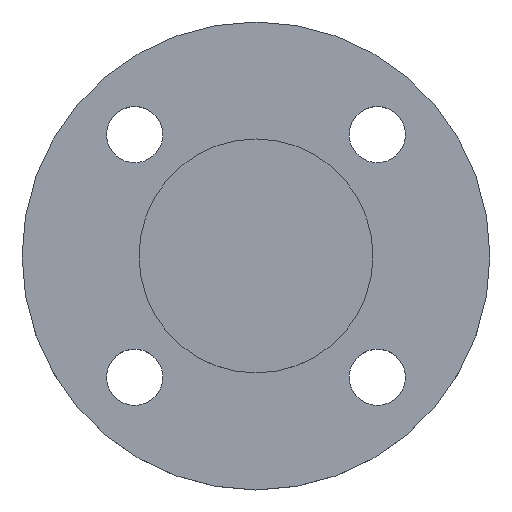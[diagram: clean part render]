
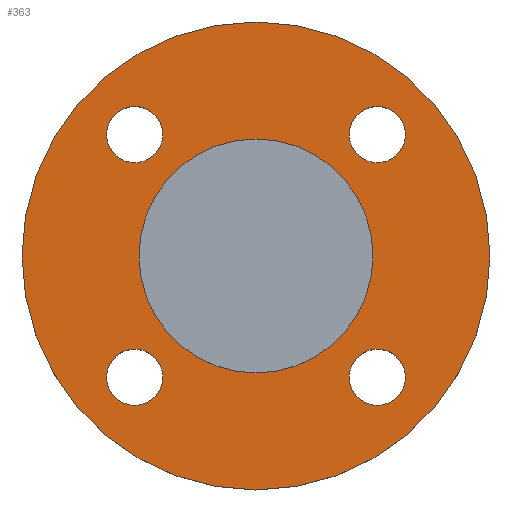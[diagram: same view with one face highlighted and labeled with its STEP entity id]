
A CAD part, top view. The second image highlights one B-rep face of the part: STEP entity #363.
In plain terms, the highlighted planar face has unit normal (0, 0, 1).
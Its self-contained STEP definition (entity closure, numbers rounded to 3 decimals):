
#1 = EDGE_CURVE ( 'NONE', #562, #579, #501, .T. ) ;
#2 = AXIS2_PLACEMENT_3D ( 'NONE', #258, #259, #260 ) ;
#3 = CIRCLE ( 'NONE', #2, 9. ) ;
#9 = EDGE_CURVE ( 'NONE', #572, #369, #351, .T. ) ;
#13 = AXIS2_PLACEMENT_3D ( 'NONE', #105, #104, #103 ) ;
#15 = VERTEX_POINT ( 'NONE', #598 ) ;
#26 = CIRCLE ( 'NONE', #415, 37.5 ) ;
#38 = AXIS2_PLACEMENT_3D ( 'NONE', #86, #85, #82 ) ;
#70 = FACE_BOUND ( 'NONE', #541, .T. ) ;
#82 = DIRECTION ( 'NONE',  ( 1., 0., 0. ) ) ;
#85 = DIRECTION ( 'NONE',  ( 0., 0., -1. ) ) ;
#86 = CARTESIAN_POINT ( 'NONE',  ( 38.891, -38.891, -4.5 ) ) ;
#103 = DIRECTION ( 'NONE',  ( 1., 0., 0. ) ) ;
#104 = DIRECTION ( 'NONE',  ( 0., 0., -1. ) ) ;
#105 = CARTESIAN_POINT ( 'NONE',  ( 38.891, 38.891, -4.5 ) ) ;
#109 = DIRECTION ( 'NONE',  ( 1., 0., 0. ) ) ;
#110 = DIRECTION ( 'NONE',  ( 0., 0., -1. ) ) ;
#111 = CARTESIAN_POINT ( 'NONE',  ( -38.891, -38.891, -4.5 ) ) ;
#117 = AXIS2_PLACEMENT_3D ( 'NONE', #111, #110, #109 ) ;
#141 = DIRECTION ( 'NONE',  ( 0., 0., -1. ) ) ;
#144 = DIRECTION ( 'NONE',  ( 1., 0., 0. ) ) ;
#149 = CARTESIAN_POINT ( 'NONE',  ( 0., 0., -4.5 ) ) ;
#151 = DIRECTION ( 'NONE',  ( -1., 0., 0. ) ) ;
#155 = CARTESIAN_POINT ( 'NONE',  ( -38.891, 38.891, -4.5 ) ) ;
#156 = DIRECTION ( 'NONE',  ( 0., 0., -1. ) ) ;
#166 = CARTESIAN_POINT ( 'NONE',  ( -37.5, 0., -4.5 ) ) ;
#168 = AXIS2_PLACEMENT_3D ( 'NONE', #680, #194, #195 ) ;
#185 = CARTESIAN_POINT ( 'NONE',  ( -47.891, 38.891, -4.5 ) ) ;
#192 = CIRCLE ( 'NONE', #13, 9. ) ;
#193 = FACE_BOUND ( 'NONE', #400, .T. ) ;
#194 = DIRECTION ( 'NONE',  ( 0., 0., 1. ) ) ;
#195 = DIRECTION ( 'NONE',  ( 1., 0., 0. ) ) ;
#206 = CARTESIAN_POINT ( 'NONE',  ( 75., 0., -4.5 ) ) ;
#207 = CARTESIAN_POINT ( 'NONE',  ( 29.891, -38.891, -4.5 ) ) ;
#208 = CARTESIAN_POINT ( 'NONE',  ( 0., 0., -4.5 ) ) ;
#209 = DIRECTION ( 'NONE',  ( 0., 0., -1. ) ) ;
#210 = DIRECTION ( 'NONE',  ( -1., 0., 0. ) ) ;
#212 = CARTESIAN_POINT ( 'NONE',  ( 38.891, -38.891, -4.5 ) ) ;
#213 = DIRECTION ( 'NONE',  ( 0., 0., -1. ) ) ;
#214 = DIRECTION ( 'NONE',  ( 1., 0., 0. ) ) ;
#217 = CARTESIAN_POINT ( 'NONE',  ( 37.5, 0., -4.5 ) ) ;
#229 = CIRCLE ( 'NONE', #117, 9. ) ;
#237 = CARTESIAN_POINT ( 'NONE',  ( -47.891, -38.891, -4.5 ) ) ;
#258 = CARTESIAN_POINT ( 'NONE',  ( -38.891, -38.891, -4.5 ) ) ;
#259 = DIRECTION ( 'NONE',  ( 0., 0., -1. ) ) ;
#260 = DIRECTION ( 'NONE',  ( 1., 0., 0. ) ) ;
#265 = CARTESIAN_POINT ( 'NONE',  ( 47.891, 38.891, -4.5 ) ) ;
#267 = CARTESIAN_POINT ( 'NONE',  ( -29.891, -38.891, -4.5 ) ) ;
#293 = CARTESIAN_POINT ( 'NONE',  ( 29.891, 38.891, -4.5 ) ) ;
#299 = PLANE ( 'NONE',  #168 ) ;
#301 = CARTESIAN_POINT ( 'NONE',  ( -29.891, 38.891, -4.5 ) ) ;
#305 = CARTESIAN_POINT ( 'NONE',  ( 0., 0., -4.5 ) ) ;
#306 = DIRECTION ( 'NONE',  ( 0., 0., -1. ) ) ;
#307 = DIRECTION ( 'NONE',  ( -1., 0., 0. ) ) ;
#310 = AXIS2_PLACEMENT_3D ( 'NONE', #728, #729, #730 ) ;
#325 = CIRCLE ( 'NONE', #38, 9. ) ;
#333 = CARTESIAN_POINT ( 'NONE',  ( -75., 0., -4.5 ) ) ;
#335 = AXIS2_PLACEMENT_3D ( 'NONE', #305, #306, #307 ) ;
#342 = CIRCLE ( 'NONE', #692, 9. ) ;
#344 = EDGE_CURVE ( 'NONE', #558, #546, #503, .T. ) ;
#351 = CIRCLE ( 'NONE', #662, 75. ) ;
#355 = AXIS2_PLACEMENT_3D ( 'NONE', #155, #141, #144 ) ;
#357 = CIRCLE ( 'NONE', #355, 9. ) ;
#360 = AXIS2_PLACEMENT_3D ( 'NONE', #149, #156, #151 ) ;
#363 = ADVANCED_FACE ( 'NONE', ( #748, #750, #193, #425, #70, #460 ), #299, .T. ) ;
#365 = CIRCLE ( 'NONE', #360, 75. ) ;
#369 = VERTEX_POINT ( 'NONE', #206 ) ;
#374 = VERTEX_POINT ( 'NONE', #207 ) ;
#382 = EDGE_CURVE ( 'NONE', #584, #416, #26, .T. ) ;
#390 = EDGE_CURVE ( 'NONE', #374, #15, #342, .T. ) ;
#400 = EDGE_LOOP ( 'NONE', ( #461, #462 ) ) ;
#415 = AXIS2_PLACEMENT_3D ( 'NONE', #208, #209, #210 ) ;
#416 = VERTEX_POINT ( 'NONE', #217 ) ;
#425 = FACE_BOUND ( 'NONE', #540, .T. ) ;
#451 = VERTEX_POINT ( 'NONE', #237 ) ;
#454 = ORIENTED_EDGE ( 'NONE', *, *, #738, .T. ) ;
#455 = ORIENTED_EDGE ( 'NONE', *, *, #390, .T. ) ;
#456 = ORIENTED_EDGE ( 'NONE', *, *, #539, .T. ) ;
#459 = ORIENTED_EDGE ( 'NONE', *, *, #696, .T. ) ;
#460 = FACE_OUTER_BOUND ( 'NONE', #543, .T. ) ;
#461 = ORIENTED_EDGE ( 'NONE', *, *, #1, .T. ) ;
#462 = ORIENTED_EDGE ( 'NONE', *, *, #645, .T. ) ;
#463 = ORIENTED_EDGE ( 'NONE', *, *, #706, .T. ) ;
#464 = ORIENTED_EDGE ( 'NONE', *, *, #344, .T. ) ;
#465 = ORIENTED_EDGE ( 'NONE', *, *, #382, .T. ) ;
#466 = ORIENTED_EDGE ( 'NONE', *, *, #565, .T. ) ;
#467 = ORIENTED_EDGE ( 'NONE', *, *, #612, .F. ) ;
#468 = ORIENTED_EDGE ( 'NONE', *, *, #9, .F. ) ;
#496 = AXIS2_PLACEMENT_3D ( 'NONE', #591, #592, #593 ) ;
#501 = CIRCLE ( 'NONE', #496, 9. ) ;
#503 = CIRCLE ( 'NONE', #310, 9. ) ;
#539 = EDGE_CURVE ( 'NONE', #547, #451, #3, .T. ) ;
#540 = EDGE_LOOP ( 'NONE', ( #463, #464 ) ) ;
#541 = EDGE_LOOP ( 'NONE', ( #465, #466 ) ) ;
#543 = EDGE_LOOP ( 'NONE', ( #467, #468 ) ) ;
#546 = VERTEX_POINT ( 'NONE', #265 ) ;
#547 = VERTEX_POINT ( 'NONE', #267 ) ;
#558 = VERTEX_POINT ( 'NONE', #293 ) ;
#562 = VERTEX_POINT ( 'NONE', #301 ) ;
#565 = EDGE_CURVE ( 'NONE', #416, #584, #737, .T. ) ;
#572 = VERTEX_POINT ( 'NONE', #333 ) ;
#578 = EDGE_LOOP ( 'NONE', ( #456, #459 ) ) ;
#579 = VERTEX_POINT ( 'NONE', #185 ) ;
#584 = VERTEX_POINT ( 'NONE', #166 ) ;
#585 = EDGE_LOOP ( 'NONE', ( #454, #455 ) ) ;
#591 = CARTESIAN_POINT ( 'NONE',  ( -38.891, 38.891, -4.5 ) ) ;
#592 = DIRECTION ( 'NONE',  ( 0., 0., -1. ) ) ;
#593 = DIRECTION ( 'NONE',  ( 1., 0., 0. ) ) ;
#594 = CARTESIAN_POINT ( 'NONE',  ( 0., 0., -4.5 ) ) ;
#595 = DIRECTION ( 'NONE',  ( 0., 0., -1. ) ) ;
#597 = DIRECTION ( 'NONE',  ( -1., 0., 0. ) ) ;
#598 = CARTESIAN_POINT ( 'NONE',  ( 47.891, -38.891, -4.5 ) ) ;
#612 = EDGE_CURVE ( 'NONE', #369, #572, #365, .T. ) ;
#645 = EDGE_CURVE ( 'NONE', #579, #562, #357, .T. ) ;
#662 = AXIS2_PLACEMENT_3D ( 'NONE', #594, #595, #597 ) ;
#680 = CARTESIAN_POINT ( 'NONE',  ( 37.5, 0., -4.5 ) ) ;
#692 = AXIS2_PLACEMENT_3D ( 'NONE', #212, #213, #214 ) ;
#696 = EDGE_CURVE ( 'NONE', #451, #547, #229, .T. ) ;
#706 = EDGE_CURVE ( 'NONE', #546, #558, #192, .T. ) ;
#728 = CARTESIAN_POINT ( 'NONE',  ( 38.891, 38.891, -4.5 ) ) ;
#729 = DIRECTION ( 'NONE',  ( 0., 0., -1. ) ) ;
#730 = DIRECTION ( 'NONE',  ( 1., 0., 0. ) ) ;
#737 = CIRCLE ( 'NONE', #335, 37.5 ) ;
#738 = EDGE_CURVE ( 'NONE', #15, #374, #325, .T. ) ;
#748 = FACE_BOUND ( 'NONE', #585, .T. ) ;
#750 = FACE_BOUND ( 'NONE', #578, .T. ) ;
